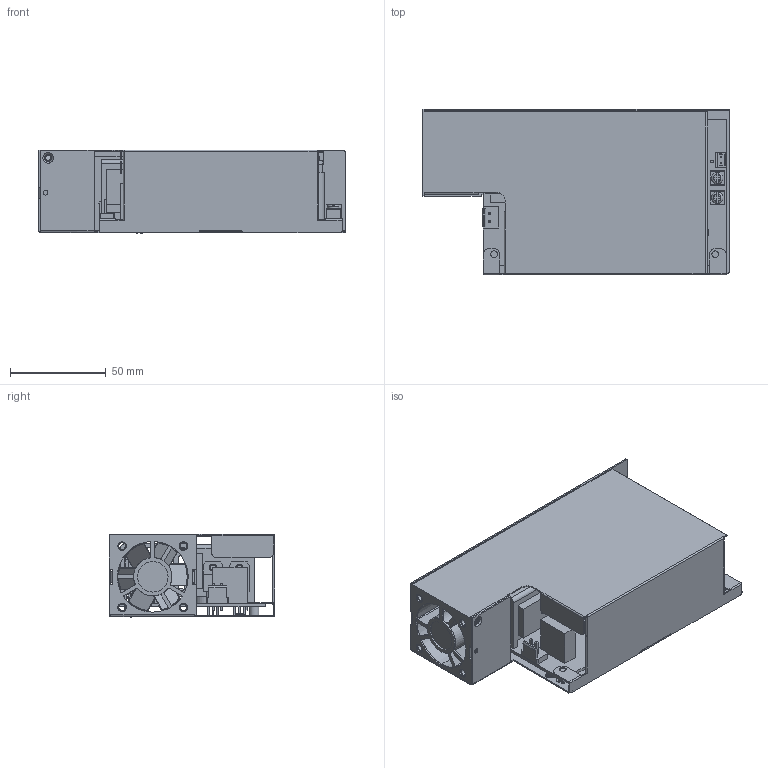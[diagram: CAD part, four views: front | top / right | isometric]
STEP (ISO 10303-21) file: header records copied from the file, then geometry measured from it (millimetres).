
FILE_DESCRIPTION(('Creo Elements/Direct Modeling STEP Export'),'2;1');
FILE_NAME('RPS-400-SF.stp','2016-09-08T13:46:04',(''),(''),'PTC Creo Elements/Direct Modeling STEP processor for AP214 (Solid Model)','PTC Creo Elements/Direct Modeling 19.0 09-May-2014 (C) Parametric Technology GmbH','');
FILE_SCHEMA(('AUTOMOTIVE_DESIGN { 1 0 10303 214 1 1 1 1 }'));
Length unit declared in the file: millimetre
Products named in the file (31): M3-6Lê°˜W-3; 946A-D; BASE; 946; 26D77668-81B1-466B-87E3-FC1E3B3698CD; JS1120R.1.1; p1.1; 8; JS1120R.1; a1; pcb; p1; 555.1; 555.1.1; 555.1.2; p2.1; pin.1.1.2; hs4.1; R; p2.1.1; hs4; p2; JS100107; MOS15.5x10.1.1.1.1.1.1.1.1; MOS15.5x10.1.1.1.1.1.1.1.2; MOS; MOSTO3P; a2; RPS-400-SF
Assembly tree (37 placements, depth 5):
  RPS-400-SF
    a2
      R  x2
      MOSTO3P
      MOS
        MOS15.5x10.1.1.1.1.1.1.1.2  x2
        MOS15.5x10.1.1.1.1.1.1.1.1
      JS100107
        p2  x2
        p1
      hs4
        pin.1.1.2
        p2.1.1
      hs4.1
        pin.1.1.2
        p2.1
      555.1.2
      555.1.1
      555.1
      p1
      pcb
      a1
        JS1120R.1
          8  x2
          p1.1
        JS1120R.1.1
    26D77668-81B1-466B-87E3-FC1E3B3698CD
    946
      BASE
        946A-D
        M3-6Lê°˜W-3  x4
Bounding box: 160 x 86.6 x 43.62 mm (x, y, z)
Volume: 90978.9 mm3; surface area: 137765.7 mm2
Topology: 27 solids, 27 shells, 1020 faces, 2645 edges, 1715 vertices
Faces by surface type: plane 597, cylinder 371, torus 30, cone 20, bspline 2
Entity records: 28994 total; most frequent: CARTESIAN_POINT 5113, ORIENTED_EDGE 4866, DIRECTION 4683, EDGE_CURVE 2433, VERTEX_POINT 1581, AXIS2_PLACEMENT_3D 1571, VECTOR 1541, LINE 1541
